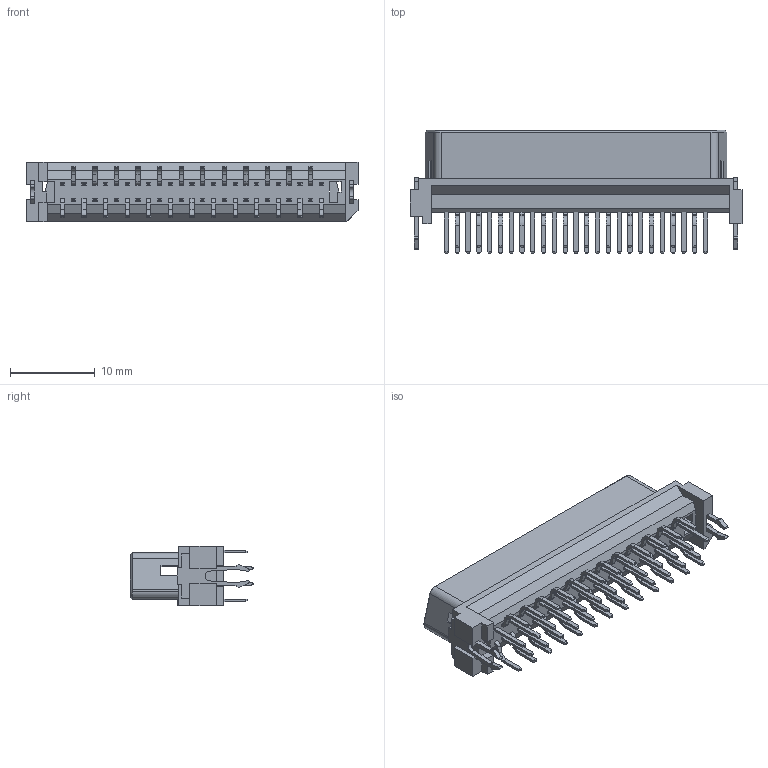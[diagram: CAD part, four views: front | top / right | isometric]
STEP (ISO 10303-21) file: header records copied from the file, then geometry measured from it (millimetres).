
FILE_DESCRIPTION (( 'STEP AP203' ), '1' );
FILE_NAME ('DHB-RB50-S131NX-FA.STEP', '2022-03-25T02:38:49', ( '' ), ( '' ), 'SwSTEP 2.0', 'SolidWorks 2018', '' );
FILE_SCHEMA (( 'CONFIG_CONTROL_DESIGN' ));
Length unit declared in the file: millimetre
Products named in the file (1): DHB-RB50-S131NX-FA
Bounding box: 39.08 x 14.5 x 7 mm (x, y, z)
Volume: 1403.7 mm3; surface area: 3354 mm2
Topology: 1 solids, 1 shells, 2205 faces, 6610 edges, 4401 vertices
Faces by surface type: plane 1721, cylinder 479, cone 5
Entity records: 74014 total; most frequent: CARTESIAN_POINT 13517, ORIENTED_EDGE 13220, DIRECTION 11935, EDGE_CURVE 6610, LINE 5497, VECTOR 5497, VERTEX_POINT 4401, AXIS2_PLACEMENT_3D 3219
